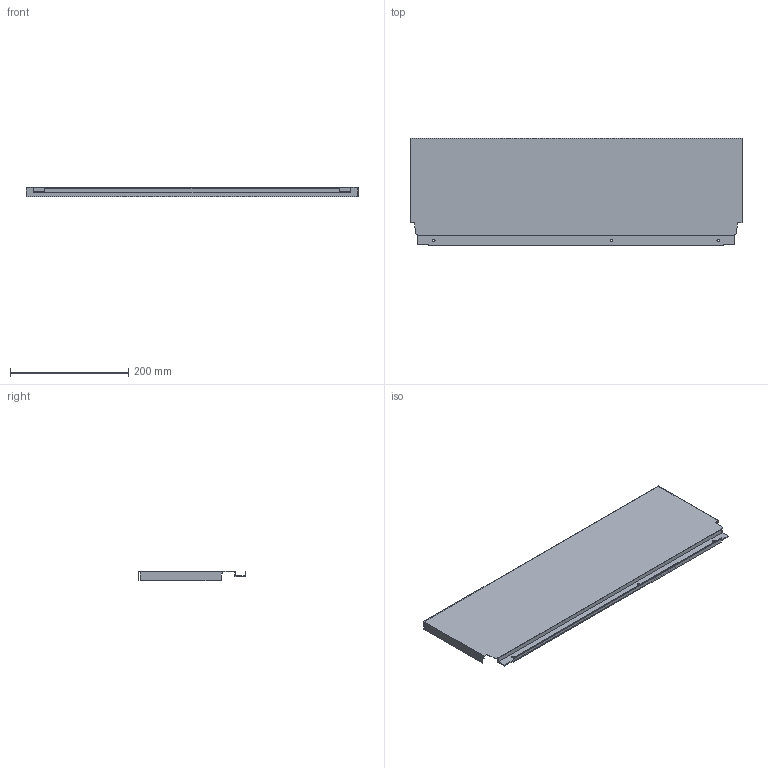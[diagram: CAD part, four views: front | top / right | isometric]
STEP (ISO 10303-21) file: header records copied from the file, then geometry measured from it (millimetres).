
FILE_DESCRIPTION (( 'STEP AP214' ), '1' );
FILE_NAME ('_DWD_XP Stahlrückwand_H182_KAB650_S19.step', '2010-07-08T12:58:07', ( 'grass' ), ( '' ), 'SwSTEP 2.0', 'SolidWorks 2010', '' );
FILE_SCHEMA (( 'AUTOMOTIVE_DESIGN' ));
Length unit declared in the file: millimetre
Products named in the file (1): _DWD_XP Stahlrückwand_H182_KAB650_S19
Bounding box: 561 x 182.49 x 16 mm (x, y, z)
Volume: 105712.2 mm3; surface area: 245119 mm2
Topology: 1 solids, 1 shells, 46 faces, 132 edges, 88 vertices
Faces by surface type: plane 40, cylinder 6
Entity records: 1534 total; most frequent: CARTESIAN_POINT 267, ORIENTED_EDGE 264, DIRECTION 238, EDGE_CURVE 132, VECTOR 120, LINE 120, VERTEX_POINT 88, AXIS2_PLACEMENT_3D 59
